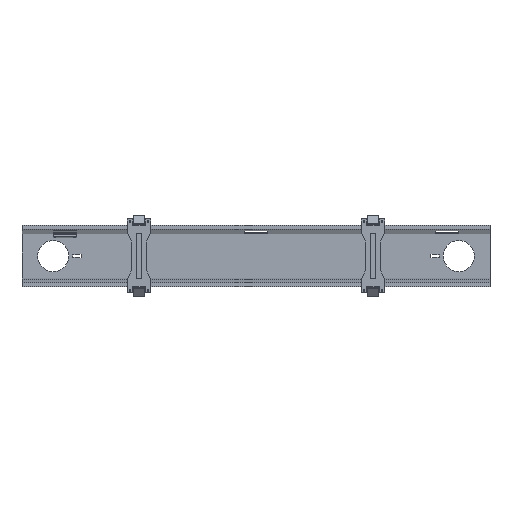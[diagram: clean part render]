
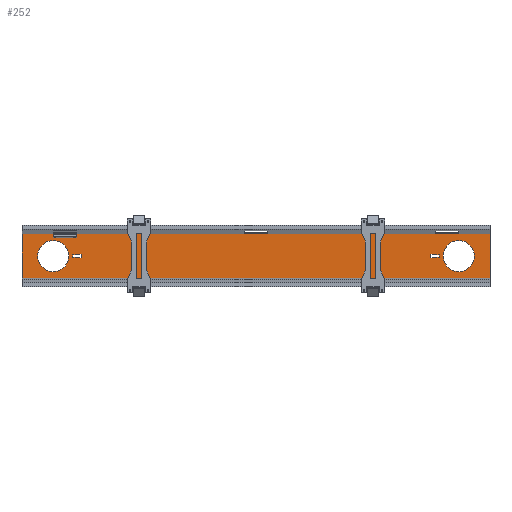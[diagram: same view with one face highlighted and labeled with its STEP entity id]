
A CAD part, top view. The second image highlights one B-rep face of the part: STEP entity #252.
In plain terms, the highlighted planar face has unit normal (0, 0, 1).
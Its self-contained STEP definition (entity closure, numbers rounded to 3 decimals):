
#252 = ADVANCED_FACE( '', ( #639, #640, #641, #642, #643 ), #644, .F. );
#639 = FACE_BOUND( '', #1221, .T. );
#640 = FACE_BOUND( '', #1222, .T. );
#641 = FACE_BOUND( '', #1223, .T. );
#642 = FACE_BOUND( '', #1224, .T. );
#643 = FACE_OUTER_BOUND( '', #1225, .T. );
#644 = PLANE( '', #1226 );
#1221 = EDGE_LOOP( '', ( #1801, #1802, #1803, #1804, #1805, #1806, #1807, #1808 ) );
#1222 = EDGE_LOOP( '', ( #1809, #1810, #1811, #1812, #1813, #1814, #1815, #1816 ) );
#1223 = EDGE_LOOP( '', ( #1817 ) );
#1224 = EDGE_LOOP( '', ( #1818 ) );
#1225 = EDGE_LOOP( '', ( #1819, #1820, #1821, #1822 ) );
#1226 = AXIS2_PLACEMENT_3D( '', #1823, #1824, #1825 );
#1801 = ORIENTED_EDGE( '', *, *, #3460, .T. );
#1802 = ORIENTED_EDGE( '', *, *, #3461, .T. );
#1803 = ORIENTED_EDGE( '', *, *, #3462, .T. );
#1804 = ORIENTED_EDGE( '', *, *, #3463, .T. );
#1805 = ORIENTED_EDGE( '', *, *, #3464, .T. );
#1806 = ORIENTED_EDGE( '', *, *, #3465, .T. );
#1807 = ORIENTED_EDGE( '', *, *, #3466, .T. );
#1808 = ORIENTED_EDGE( '', *, *, #3467, .T. );
#1809 = ORIENTED_EDGE( '', *, *, #3468, .T. );
#1810 = ORIENTED_EDGE( '', *, *, #3469, .T. );
#1811 = ORIENTED_EDGE( '', *, *, #3470, .T. );
#1812 = ORIENTED_EDGE( '', *, *, #3471, .T. );
#1813 = ORIENTED_EDGE( '', *, *, #3472, .T. );
#1814 = ORIENTED_EDGE( '', *, *, #3473, .T. );
#1815 = ORIENTED_EDGE( '', *, *, #3474, .T. );
#1816 = ORIENTED_EDGE( '', *, *, #3475, .T. );
#1817 = ORIENTED_EDGE( '', *, *, #3476, .T. );
#1818 = ORIENTED_EDGE( '', *, *, #3477, .T. );
#1819 = ORIENTED_EDGE( '', *, *, #3478, .T. );
#1820 = ORIENTED_EDGE( '', *, *, #3479, .F. );
#1821 = ORIENTED_EDGE( '', *, *, #3480, .F. );
#1822 = ORIENTED_EDGE( '', *, *, #3481, .T. );
#1823 = CARTESIAN_POINT( '', ( 923., 144.5, -94.5 ) );
#1824 = DIRECTION( '', ( 0., 0., -1. ) );
#1825 = DIRECTION( '', ( 0., 1., 0. ) );
#3460 = EDGE_CURVE( '', #4127, #4128, #4129, .T. );
#3461 = EDGE_CURVE( '', #4128, #4130, #4131, .T. );
#3462 = EDGE_CURVE( '', #4130, #4132, #4133, .T. );
#3463 = EDGE_CURVE( '', #4132, #4134, #4135, .T. );
#3464 = EDGE_CURVE( '', #4134, #4136, #4137, .T. );
#3465 = EDGE_CURVE( '', #4136, #4138, #4139, .T. );
#3466 = EDGE_CURVE( '', #4138, #4140, #4141, .T. );
#3467 = EDGE_CURVE( '', #4140, #4127, #4142, .T. );
#3468 = EDGE_CURVE( '', #4143, #4144, #4145, .T. );
#3469 = EDGE_CURVE( '', #4144, #4146, #4147, .T. );
#3470 = EDGE_CURVE( '', #4146, #4148, #4149, .T. );
#3471 = EDGE_CURVE( '', #4148, #4150, #4151, .T. );
#3472 = EDGE_CURVE( '', #4150, #4152, #4153, .T. );
#3473 = EDGE_CURVE( '', #4152, #4154, #4155, .T. );
#3474 = EDGE_CURVE( '', #4154, #4156, #4157, .T. );
#3475 = EDGE_CURVE( '', #4156, #4143, #4158, .T. );
#3476 = EDGE_CURVE( '', #4159, #4159, #4160, .T. );
#3477 = EDGE_CURVE( '', #4161, #4161, #4162, .T. );
#3478 = EDGE_CURVE( '', #4163, #4164, #4165, .T. );
#3479 = EDGE_CURVE( '', #4166, #4164, #4167, .T. );
#3480 = EDGE_CURVE( '', #4168, #4166, #4169, .T. );
#3481 = EDGE_CURVE( '', #4168, #4163, #4170, .T. );
#4127 = VERTEX_POINT( '', #5124 );
#4128 = VERTEX_POINT( '', #5125 );
#4129 = LINE( '', #5126, #5127 );
#4130 = VERTEX_POINT( '', #5128 );
#4131 = LINE( '', #5129, #5130 );
#4132 = VERTEX_POINT( '', #5131 );
#4133 = LINE( '', #5132, #5133 );
#4134 = VERTEX_POINT( '', #5134 );
#4135 = LINE( '', #5135, #5136 );
#4136 = VERTEX_POINT( '', #5137 );
#4137 = LINE( '', #5138, #5139 );
#4138 = VERTEX_POINT( '', #5140 );
#4139 = LINE( '', #5141, #5142 );
#4140 = VERTEX_POINT( '', #5143 );
#4141 = LINE( '', #5144, #5145 );
#4142 = LINE( '', #5146, #5147 );
#4143 = VERTEX_POINT( '', #5148 );
#4144 = VERTEX_POINT( '', #5149 );
#4145 = LINE( '', #5150, #5151 );
#4146 = VERTEX_POINT( '', #5152 );
#4147 = LINE( '', #5153, #5154 );
#4148 = VERTEX_POINT( '', #5155 );
#4149 = LINE( '', #5156, #5157 );
#4150 = VERTEX_POINT( '', #5158 );
#4151 = LINE( '', #5159, #5160 );
#4152 = VERTEX_POINT( '', #5161 );
#4153 = LINE( '', #5162, #5163 );
#4154 = VERTEX_POINT( '', #5164 );
#4155 = LINE( '', #5165, #5166 );
#4156 = VERTEX_POINT( '', #5167 );
#4157 = LINE( '', #5168, #5169 );
#4158 = LINE( '', #5170, #5171 );
#4159 = VERTEX_POINT( '', #5172 );
#4160 = CIRCLE( '', #5173, 40. );
#4161 = VERTEX_POINT( '', #5174 );
#4162 = CIRCLE( '', #5175, 40. );
#4163 = VERTEX_POINT( '', #5176 );
#4164 = VERTEX_POINT( '', #5177 );
#4165 = LINE( '', #5178, #5179 );
#4166 = VERTEX_POINT( '', #5180 );
#4167 = LINE( '', #5181, #5182 );
#4168 = VERTEX_POINT( '', #5183 );
#4169 = LINE( '', #5184, #5185 );
#4170 = LINE( '', #5186, #5187 );
#5124 = CARTESIAN_POINT( '', ( 771., 83., -94.5 ) );
#5125 = CARTESIAN_POINT( '', ( 771., 92., -94.5 ) );
#5126 = CARTESIAN_POINT( '', ( 771., 144.5, -94.5 ) );
#5127 = VECTOR( '', #6742, 1000. );
#5128 = CARTESIAN_POINT( '', ( 781., 92., -94.5 ) );
#5129 = CARTESIAN_POINT( '', ( 923., 92., -94.5 ) );
#5130 = VECTOR( '', #6743, 1000. );
#5131 = CARTESIAN_POINT( '', ( 781., 90.25, -94.5 ) );
#5132 = CARTESIAN_POINT( '', ( 781., 144.5, -94.5 ) );
#5133 = VECTOR( '', #6744, 1000. );
#5134 = CARTESIAN_POINT( '', ( 793., 90.25, -94.5 ) );
#5135 = CARTESIAN_POINT( '', ( 923., 90.25, -94.5 ) );
#5136 = VECTOR( '', #6745, 1000. );
#5137 = CARTESIAN_POINT( '', ( 793., 84.75, -94.5 ) );
#5138 = CARTESIAN_POINT( '', ( 793., 144.5, -94.5 ) );
#5139 = VECTOR( '', #6746, 1000. );
#5140 = CARTESIAN_POINT( '', ( 781., 84.75, -94.5 ) );
#5141 = CARTESIAN_POINT( '', ( 923., 84.75, -94.5 ) );
#5142 = VECTOR( '', #6747, 1000. );
#5143 = CARTESIAN_POINT( '', ( 781., 83., -94.5 ) );
#5144 = CARTESIAN_POINT( '', ( 781., 144.5, -94.5 ) );
#5145 = VECTOR( '', #6748, 1000. );
#5146 = CARTESIAN_POINT( '', ( 923., 83., -94.5 ) );
#5147 = VECTOR( '', #6749, 1000. );
#5148 = CARTESIAN_POINT( '', ( -135., 84.75, -94.5 ) );
#5149 = CARTESIAN_POINT( '', ( -147., 84.75, -94.5 ) );
#5150 = CARTESIAN_POINT( '', ( 923., 84.75, -94.5 ) );
#5151 = VECTOR( '', #6750, 1000. );
#5152 = CARTESIAN_POINT( '', ( -147., 90.25, -94.5 ) );
#5153 = CARTESIAN_POINT( '', ( -147., 144.5, -94.5 ) );
#5154 = VECTOR( '', #6751, 1000. );
#5155 = CARTESIAN_POINT( '', ( -135., 90.25, -94.5 ) );
#5156 = CARTESIAN_POINT( '', ( 923., 90.25, -94.5 ) );
#5157 = VECTOR( '', #6752, 1000. );
#5158 = CARTESIAN_POINT( '', ( -135., 92., -94.5 ) );
#5159 = CARTESIAN_POINT( '', ( -135., 144.5, -94.5 ) );
#5160 = VECTOR( '', #6753, 1000. );
#5161 = CARTESIAN_POINT( '', ( -125., 92., -94.5 ) );
#5162 = CARTESIAN_POINT( '', ( 923., 92., -94.5 ) );
#5163 = VECTOR( '', #6754, 1000. );
#5164 = CARTESIAN_POINT( '', ( -125., 83., -94.5 ) );
#5165 = CARTESIAN_POINT( '', ( -125., 144.5, -94.5 ) );
#5166 = VECTOR( '', #6755, 1000. );
#5167 = CARTESIAN_POINT( '', ( -135., 83., -94.5 ) );
#5168 = CARTESIAN_POINT( '', ( 923., 83., -94.5 ) );
#5169 = VECTOR( '', #6756, 1000. );
#5170 = CARTESIAN_POINT( '', ( -135., 144.5, -94.5 ) );
#5171 = VECTOR( '', #6757, 1000. );
#5172 = CARTESIAN_POINT( '', ( 843., 127.5, -94.5 ) );
#5173 = AXIS2_PLACEMENT_3D( '', #6758, #6759, #6760 );
#5174 = CARTESIAN_POINT( '', ( -197., 127.5, -94.5 ) );
#5175 = AXIS2_PLACEMENT_3D( '', #6761, #6762, #6763 );
#5176 = CARTESIAN_POINT( '', ( -277., 144.5, -94.5 ) );
#5177 = CARTESIAN_POINT( '', ( -277., 30.5, -94.5 ) );
#5178 = CARTESIAN_POINT( '', ( -277., 144.5, -94.5 ) );
#5179 = VECTOR( '', #6764, 1000. );
#5180 = CARTESIAN_POINT( '', ( 923., 30.5, -94.5 ) );
#5181 = CARTESIAN_POINT( '', ( 923., 30.5, -94.5 ) );
#5182 = VECTOR( '', #6765, 1000. );
#5183 = CARTESIAN_POINT( '', ( 923., 144.5, -94.5 ) );
#5184 = CARTESIAN_POINT( '', ( 923., 144.5, -94.5 ) );
#5185 = VECTOR( '', #6766, 1000. );
#5186 = CARTESIAN_POINT( '', ( 923., 144.5, -94.5 ) );
#5187 = VECTOR( '', #6767, 1000. );
#6742 = DIRECTION( '', ( 0., 1., 0. ) );
#6743 = DIRECTION( '', ( 1., 0., 0. ) );
#6744 = DIRECTION( '', ( 0., -1., 0. ) );
#6745 = DIRECTION( '', ( 1., 0., 0. ) );
#6746 = DIRECTION( '', ( 0., -1., 0. ) );
#6747 = DIRECTION( '', ( -1., 0., 0. ) );
#6748 = DIRECTION( '', ( 0., -1., 0. ) );
#6749 = DIRECTION( '', ( -1., 0., 0. ) );
#6750 = DIRECTION( '', ( -1., 0., 0. ) );
#6751 = DIRECTION( '', ( 0., 1., 0. ) );
#6752 = DIRECTION( '', ( 1., 0., 0. ) );
#6753 = DIRECTION( '', ( 0., 1., 0. ) );
#6754 = DIRECTION( '', ( 1., 0., 0. ) );
#6755 = DIRECTION( '', ( 0., -1., 0. ) );
#6756 = DIRECTION( '', ( -1., 0., 0. ) );
#6757 = DIRECTION( '', ( 0., 1., 0. ) );
#6758 = CARTESIAN_POINT( '', ( 843., 87.5, -94.5 ) );
#6759 = DIRECTION( '', ( 0., 0., -1. ) );
#6760 = DIRECTION( '', ( 0., 1., 0. ) );
#6761 = CARTESIAN_POINT( '', ( -197., 87.5, -94.5 ) );
#6762 = DIRECTION( '', ( 0., 0., -1. ) );
#6763 = DIRECTION( '', ( 0., 1., 0. ) );
#6764 = DIRECTION( '', ( 0., -1., 0. ) );
#6765 = DIRECTION( '', ( -1., 0., 0. ) );
#6766 = DIRECTION( '', ( 0., -1., 0. ) );
#6767 = DIRECTION( '', ( -1., 0., 0. ) );
